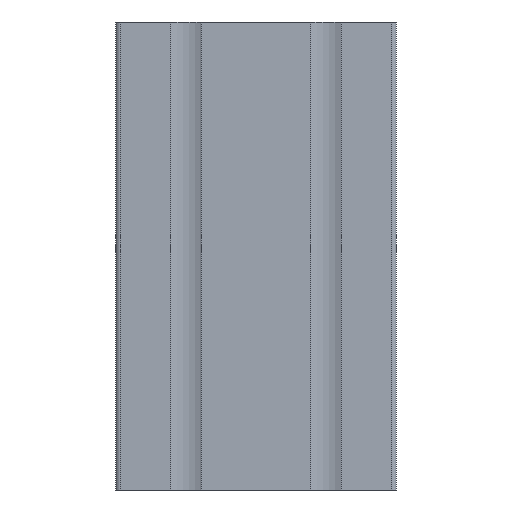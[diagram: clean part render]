
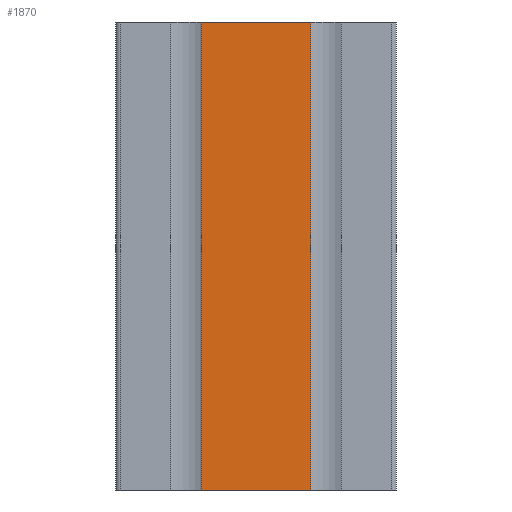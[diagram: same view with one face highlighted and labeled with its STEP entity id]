
A CAD part, front view. The second image highlights one B-rep face of the part: STEP entity #1870.
In plain terms, the highlighted planar face has unit normal (0, -1, 0).
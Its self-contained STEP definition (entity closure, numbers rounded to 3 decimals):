
#9 = LINE ( 'NONE', #2519, #4617 ) ;
#118 = EDGE_CURVE ( 'NONE', #3138, #4901, #2115, .T. ) ;
#168 = CARTESIAN_POINT ( 'NONE',  ( -11.75, -15., 50. ) ) ;
#311 = VECTOR ( 'NONE', #385, 1000. ) ;
#366 = EDGE_LOOP ( 'NONE', ( #3479, #3593, #1477, #3150 ) ) ;
#385 = DIRECTION ( 'NONE',  ( 0., 0., -1. ) ) ;
#675 = CARTESIAN_POINT ( 'NONE',  ( -11.75, -15., -50. ) ) ;
#970 = VECTOR ( 'NONE', #1283, 1000. ) ;
#1012 = AXIS2_PLACEMENT_3D ( 'NONE', #1443, #4030, #2752 ) ;
#1063 = PLANE ( 'NONE',  #1012 ) ;
#1264 = CARTESIAN_POINT ( 'NONE',  ( -11.75, -15., 50. ) ) ;
#1283 = DIRECTION ( 'NONE',  ( 1., 0., 0. ) ) ;
#1443 = CARTESIAN_POINT ( 'NONE',  ( -11.75, -15., 50. ) ) ;
#1477 = ORIENTED_EDGE ( 'NONE', *, *, #2301, .F. ) ;
#1870 = ADVANCED_FACE ( 'NONE', ( #4541 ), #1063, .F. ) ;
#1933 = DIRECTION ( 'NONE',  ( 1., 0., 0. ) ) ;
#2115 = LINE ( 'NONE', #2139, #970 ) ;
#2139 = CARTESIAN_POINT ( 'NONE',  ( -11.75, -15., -50. ) ) ;
#2301 = EDGE_CURVE ( 'NONE', #4217, #3325, #2745, .T. ) ;
#2519 = CARTESIAN_POINT ( 'NONE',  ( 11.75, -15., 50. ) ) ;
#2745 = LINE ( 'NONE', #168, #4170 ) ;
#2752 = DIRECTION ( 'NONE',  ( 0., 0., 1. ) ) ;
#2870 = LINE ( 'NONE', #1264, #311 ) ;
#2933 = CARTESIAN_POINT ( 'NONE',  ( 11.75, -15., -50. ) ) ;
#2964 = DIRECTION ( 'NONE',  ( 0., 0., -1. ) ) ;
#3060 = CARTESIAN_POINT ( 'NONE',  ( -11.75, -15., 50. ) ) ;
#3138 = VERTEX_POINT ( 'NONE', #675 ) ;
#3150 = ORIENTED_EDGE ( 'NONE', *, *, #4015, .T. ) ;
#3213 = EDGE_CURVE ( 'NONE', #3325, #4901, #9, .T. ) ;
#3325 = VERTEX_POINT ( 'NONE', #5141 ) ;
#3479 = ORIENTED_EDGE ( 'NONE', *, *, #118, .T. ) ;
#3593 = ORIENTED_EDGE ( 'NONE', *, *, #3213, .F. ) ;
#4015 = EDGE_CURVE ( 'NONE', #4217, #3138, #2870, .T. ) ;
#4030 = DIRECTION ( 'NONE',  ( 0., 1., 0. ) ) ;
#4170 = VECTOR ( 'NONE', #1933, 1000. ) ;
#4217 = VERTEX_POINT ( 'NONE', #3060 ) ;
#4541 = FACE_OUTER_BOUND ( 'NONE', #366, .T. ) ;
#4617 = VECTOR ( 'NONE', #2964, 1000. ) ;
#4901 = VERTEX_POINT ( 'NONE', #2933 ) ;
#5141 = CARTESIAN_POINT ( 'NONE',  ( 11.75, -15., 50. ) ) ;
